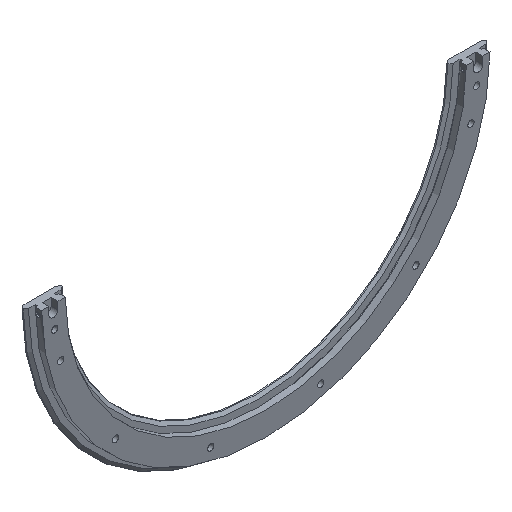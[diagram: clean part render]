
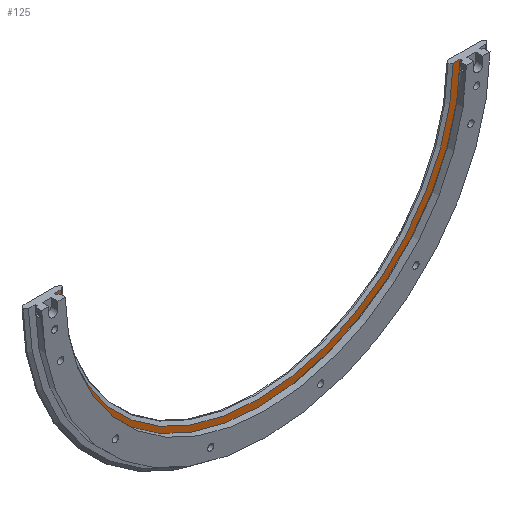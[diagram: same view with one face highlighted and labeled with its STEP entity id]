
A CAD part, isometric view. The second image highlights one B-rep face of the part: STEP entity #125.
In plain terms, the highlighted planar face has unit normal (0, -1, 0).
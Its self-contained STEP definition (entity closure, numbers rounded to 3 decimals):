
#125 = ADVANCED_FACE( '', ( #292 ), #293, .T. );
#292 = FACE_OUTER_BOUND( '', #515, .T. );
#293 = PLANE( '', #516 );
#515 = EDGE_LOOP( '', ( #982, #983, #984, #985 ) );
#516 = AXIS2_PLACEMENT_3D( '', #986, #987, #988 );
#982 = ORIENTED_EDGE( '', *, *, #1380, .T. );
#983 = ORIENTED_EDGE( '', *, *, #1255, .T. );
#984 = ORIENTED_EDGE( '', *, *, #1381, .F. );
#985 = ORIENTED_EDGE( '', *, *, #1382, .T. );
#986 = CARTESIAN_POINT( '', ( -215.914, 9.5, 0. ) );
#987 = DIRECTION( '', ( 0., -1., 0. ) );
#988 = DIRECTION( '', ( 0., 0., -1. ) );
#1255 = EDGE_CURVE( '', #1459, #1457, #1460, .T. );
#1380 = EDGE_CURVE( '', #1672, #1459, #1673, .T. );
#1381 = EDGE_CURVE( '', #1674, #1457, #1675, .T. );
#1382 = EDGE_CURVE( '', #1674, #1672, #1676, .T. );
#1457 = VERTEX_POINT( '', #1816 );
#1459 = VERTEX_POINT( '', #1821 );
#1460 = LINE( '', #1822, #1823 );
#1672 = VERTEX_POINT( '', #2279 );
#1673 = CIRCLE( '', #2280, 223.6 );
#1674 = VERTEX_POINT( '', #2281 );
#1675 = CIRCLE( '', #2282, 215.914 );
#1676 = LINE( '', #2283, #2284 );
#1816 = CARTESIAN_POINT( '', ( 215.9, 9.5, -2.5 ) );
#1821 = CARTESIAN_POINT( '', ( 223.586, 9.5, -2.5 ) );
#1822 = CARTESIAN_POINT( '', ( -215.914, 9.5, -2.5 ) );
#1823 = VECTOR( '', #2402, 1000. );
#2279 = CARTESIAN_POINT( '', ( -223.586, 9.5, -2.5 ) );
#2280 = AXIS2_PLACEMENT_3D( '', #2605, #2606, #2607 );
#2281 = CARTESIAN_POINT( '', ( -215.9, 9.5, -2.5 ) );
#2282 = AXIS2_PLACEMENT_3D( '', #2608, #2609, #2610 );
#2283 = CARTESIAN_POINT( '', ( -215.914, 9.5, -2.5 ) );
#2284 = VECTOR( '', #2611, 1000. );
#2402 = DIRECTION( '', ( -1., 0., 0. ) );
#2605 = CARTESIAN_POINT( '', ( 0., 9.5, 0. ) );
#2606 = DIRECTION( '', ( 0., -1., 0. ) );
#2607 = DIRECTION( '', ( 0., 0., -1. ) );
#2608 = CARTESIAN_POINT( '', ( 0., 9.5, 0. ) );
#2609 = DIRECTION( '', ( 0., -1., 0. ) );
#2610 = DIRECTION( '', ( 0., 0., -1. ) );
#2611 = DIRECTION( '', ( -1., 0., 0. ) );
